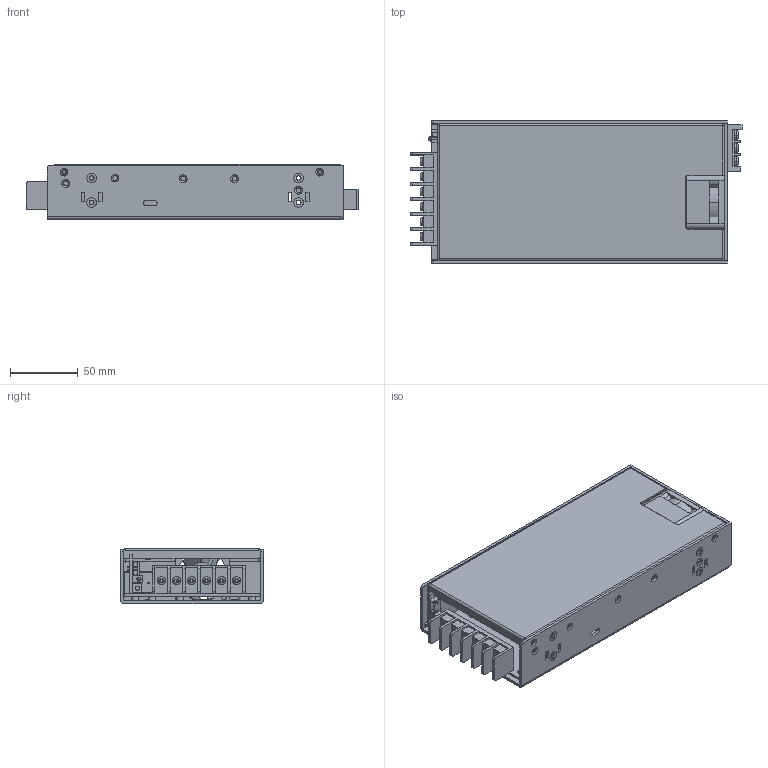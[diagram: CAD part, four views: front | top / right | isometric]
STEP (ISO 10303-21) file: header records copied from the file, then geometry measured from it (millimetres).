
FILE_DESCRIPTION(('OneSpaceDesigner STEP Export'),'2;1');
FILE_NAME('HRP.G-450.stp','2010-06-08T11:55:17',(''),(''),'OneSpace Designer STEP processor for AP214 (Solid Model)','OneSpace Designer 13.20 11-May-2005 (C) CoCreate Software GmbH','');
FILE_SCHEMA(('AUTOMOTIVE_DESIGN { 1 0 10303 214 1 1 1 1 }'));
Length unit declared in the file: millimetre
Products named in the file (20): M3-7L.1.1; ¤U»\; p2; ff; a1; BASE; cover; ºÝ¤l2; ºÝ¤l1; VR; p1; JS100107; pcb2; PCB; ¤pLED; pcb-2; FAN; HRP-450
Assembly tree (31 placements, depth 5):
  HRP-450
    PCB
      FAN
      pcb-2
        ¤pLED
        PCB
        pcb2
        JS100107
          p2  x2
          p1
        VR
      ºÝ¤l1
      ºÝ¤l2
    cover
    BASE
      a1
        ff  x8
      M3-7L.1.1  x5
      p2
      ¤U»\
Bounding box: 244.45 x 105 x 40.5 mm (x, y, z)
Volume: 190857.1 mm3; surface area: 207169.9 mm2
Topology: 25 solids, 25 shells, 1096 faces, 2754 edges, 1750 vertices
Faces by surface type: plane 676, cylinder 318, torus 58, cone 38, bspline 6
Entity records: 29806 total; most frequent: CARTESIAN_POINT 7348, ORIENTED_EDGE 4808, DIRECTION 3906, EDGE_CURVE 2404, VERTEX_POINT 1524, VECTOR 1494, LINE 1494, AXIS2_PLACEMENT_3D 1206
